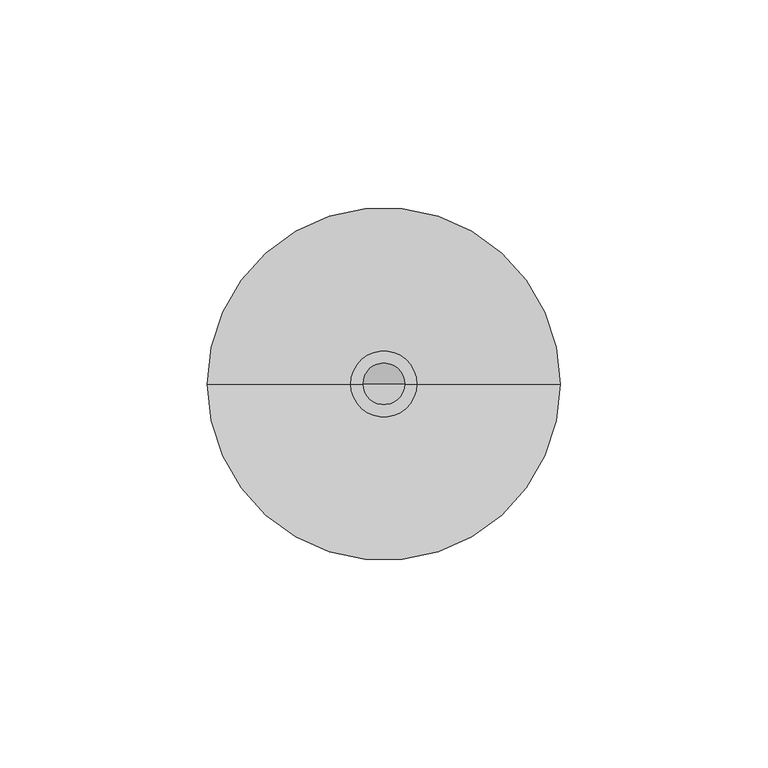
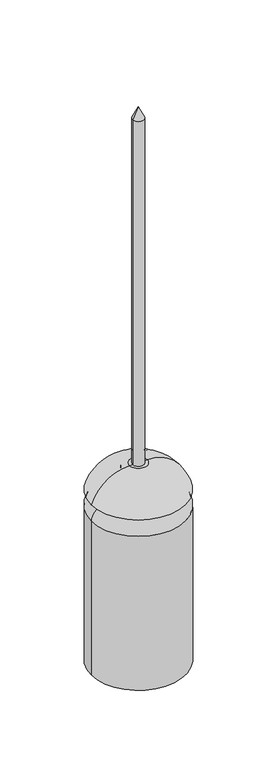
"""IFC4 building model written with IfcOpenShell, lengths in millimetres: proxy geometry, КНС_ESEМолниеприемник_DKC : NI0060_Нержавеющая сталь V4A."""

import ifcopenshell
import ifcopenshell.guid

model = None  # the IFC model being written
_history = None  # IfcOwnerHistory: only IFC2X3 demands one
_inside = {}  # id of a spatial element -> (the spatial element, [elements in it])
_under = {}  # id of a project, library or spatial element -> (it, [spatial elements below it])
_declared = {}  # id of a project -> (the project, [libraries it declares])
_typed = {}  # id of a type object -> (the type object, [elements of that type])
_made_of = {}  # id of a material, layer set ... -> (it, [elements and type objects made of it])


def new_model(schema):
    """Start an empty IFC model of exactly this schema.

    Asked for "IFC4X3", IfcOpenShell would pick the latest addendum, in which some entities
    have other attributes; the version numbers below select the first issue.
    IFC2X3 requires an IfcOwnerHistory on every rooted entity: one is made here for all.
    """
    global model, _history
    if schema == "IFC4X3":
        model = ifcopenshell.file(schema_version=(4, 3, 0, 0))
    else:
        model = ifcopenshell.file(schema=schema)
    _inside.clear()
    _under.clear()
    _declared.clear()
    _typed.clear()
    _made_of.clear()
    _history = None
    if model.schema == "IFC2X3":
        org = make("IfcOrganization", Name="unknown")
        user = make(
            "IfcPersonAndOrganization",
            ThePerson=make("IfcPerson", FamilyName="unknown"),
            TheOrganization=org,
        )
        app = make(
            "IfcApplication",
            ApplicationDeveloper=org,
            Version="unknown",
            ApplicationFullName="unknown",
            ApplicationIdentifier="unknown",
        )
        _history = make(
            "IfcOwnerHistory",
            OwningUser=user,
            OwningApplication=app,
            ChangeAction="ADDED",
            CreationDate=0,
        )
    return model


def make(cls, **values):
    """One entity of the class cls with the attributes given. An attribute that is None is left unset."""
    return model.create_entity(
        cls, **{name: value for name, value in values.items() if value is not None}
    )


def rooted(cls, **values):
    """An entity with a GlobalId (a new one), such as an element, a storey or a relation."""
    return make(cls, GlobalId=ifcopenshell.guid.new(), OwnerHistory=_history, **values)


def si_unit(unit_type, name, prefix=None):
    """IfcSIUnit, for example si_unit("LENGTHUNIT", "METRE", prefix="MILLI")."""
    return make("IfcSIUnit", UnitType=unit_type, Prefix=prefix, Name=name)


def assignment(units):
    """IfcUnitAssignment: the units of a project."""
    return None if units is None else make("IfcUnitAssignment", Units=units)


def point(xyz):
    """IfcCartesianPoint."""
    return None if xyz is None else make("IfcCartesianPoint", Coordinates=xyz)


def direction(xyz):
    """IfcDirection."""
    return None if xyz is None else make("IfcDirection", DirectionRatios=xyz)


def frame(location, z_axis=None, x_axis=None):
    """IfcAxis2Placement3D, a coordinate frame: its origin and axes. An axis left out is left unset."""
    return make(
        "IfcAxis2Placement3D",
        Location=point(location),
        Axis=direction(z_axis),
        RefDirection=direction(x_axis),
    )


def origin():
    """The frame at (0, 0, 0) with its axes left unset."""
    return frame((0.0, 0.0, 0.0))


def place(relative_to, where):
    """IfcLocalPlacement: puts the frame where relative to a parent placement (None: the world)."""
    return make(
        "IfcLocalPlacement", PlacementRelTo=relative_to, RelativePlacement=where
    )


def context(
    kind, dimensions, precision=None, world=None, true_north=None, identifier=None
):
    """IfcGeometricRepresentationContext, for example the 3D "Model" context."""
    return make(
        "IfcGeometricRepresentationContext",
        ContextIdentifier=identifier,
        ContextType=kind,
        CoordinateSpaceDimension=dimensions,
        Precision=precision,
        WorldCoordinateSystem=world,
        TrueNorth=true_north,
    )


def project(units=None, contexts=None):
    """IfcProject with its units and contexts."""
    return rooted(
        "IfcProject",
        Name="project",
        RepresentationContexts=contexts,
        UnitsInContext=assignment(units),
    )


def spatial(cls, under=None, at=None, **own):
    """A site, building, storey or space (cls), placed at a placement, below another one or the project."""
    s = rooted(cls, ObjectPlacement=at, **own)
    if under is not None:
        _under.setdefault(under.id(), (under, []))[1].append(s)
    return s


def polyline(points):
    """IfcPolyline through the points."""
    return make("IfcPolyline", Points=[point(p) for p in points])


def circle_curve(where, radius):
    """IfcCircle in the frame where."""
    return make("IfcCircle", Position=where, Radius=radius)


def ellipse_curve(where, semi_axis1, semi_axis2):
    """IfcEllipse in the frame where."""
    return make(
        "IfcEllipse", Position=where, SemiAxis1=semi_axis1, SemiAxis2=semi_axis2
    )


def trimmed(basis, trim1, trim2, sense, master):
    """IfcTrimmedCurve: the piece of a basis curve between two trims."""
    return make(
        "IfcTrimmedCurve",
        BasisCurve=basis,
        Trim1=trim1,
        Trim2=trim2,
        SenseAgreement=sense,
        MasterRepresentation=master,
    )


def shape(context_of_items, identifier, shape_type, items):
    """IfcShapeRepresentation: the items that make up one representation, for example the "Body"."""
    return make(
        "IfcShapeRepresentation",
        ContextOfItems=context_of_items,
        RepresentationIdentifier=identifier,
        RepresentationType=shape_type,
        Items=items,
    )


def source(mapping_origin, context_of_items, identifier, shape_type, items):
    """IfcRepresentationMap: a shape defined once, which mapped items show again and again."""
    return make(
        "IfcRepresentationMap",
        MappingOrigin=mapping_origin,
        MappedRepresentation=shape(context_of_items, identifier, shape_type, items),
    )


def transform(
    local_origin,
    x_axis=None,
    y_axis=None,
    z_axis=None,
    scale=None,
    scale2=None,
    scale3=None,
    uniform=True,
):
    """IfcCartesianTransformationOperator3D, or its non-uniform kind. x_axis, y_axis, z_axis: its Axis1, 2, 3."""
    if uniform:
        return make(
            "IfcCartesianTransformationOperator3D",
            Axis1=direction(x_axis),
            Axis2=direction(y_axis),
            LocalOrigin=point(local_origin),
            Scale=scale,
            Axis3=direction(z_axis),
        )
    return make(
        "IfcCartesianTransformationOperator3DnonUniform",
        Axis1=direction(x_axis),
        Axis2=direction(y_axis),
        LocalOrigin=point(local_origin),
        Scale=scale,
        Axis3=direction(z_axis),
        Scale2=scale2,
        Scale3=scale3,
    )


def mapped(mapping_source, mapping_target):
    """IfcMappedItem: shows the shape of a source again, moved by a transform."""
    return make(
        "IfcMappedItem", MappingSource=mapping_source, MappingTarget=mapping_target
    )


def made_of(thing, what):
    """Note that an element or type object is made of a material, layer set ...; save() writes the relation."""
    if what is not None:
        _made_of.setdefault(what.id(), (what, []))[1].append(thing)
    return thing


def element(
    cls,
    number,
    at=None,
    inside=None,
    cuts=None,
    type_object=None,
    material=None,
    context=None,
    identifier="Body",
    shape_type=None,
    held_by="IfcProductDefinitionShape",
    body=None,
    shapes=None,
    **own,
):
    """One element of the class cls, such as IfcWall. Its Tag is "e" and its number.

    at: its placement. inside: the storey or other place that contains it. cuts: it is an
    opening in that element (IfcRelVoidsElement). A single representation is given by context,
    identifier, shape_type and body (its items); several are given by shapes. held_by: the class
    of the entity that holds the representations. save() writes the other relations.
    """
    e = rooted(cls, Tag="e%d" % number, ObjectPlacement=at, **own)
    if body is not None:
        shapes = [shape(context, identifier, shape_type, body)]
    if shapes is not None:
        e.Representation = make(held_by, Representations=shapes)
    if inside is not None:
        _inside.setdefault(inside.id(), (inside, []))[1].append(e)
    if cuts is not None:
        rooted(
            "IfcRelVoidsElement", RelatingBuildingElement=cuts, RelatedOpeningElement=e
        )
    if type_object is not None:
        _typed.setdefault(type_object.id(), (type_object, []))[1].append(e)
    return made_of(e, material)


def aggregate(whole, parts):
    """IfcRelAggregates: a whole, such as a stair, and the parts it consists of."""
    return rooted("IfcRelAggregates", RelatingObject=whole, RelatedObjects=parts)


def save(model, path):
    """Write the relations noted so far, then the file.

    IfcRelAggregates (storeys below a building ...), IfcRelContainedInSpatialStructure (elements
    in a storey), IfcRelDefinesByType, IfcRelAssociatesMaterial and IfcRelDeclares: one each for
    every whole, place, type object, material and project.
    """
    for whole, parts in _under.values():
        aggregate(whole, parts)
    for where, things in _inside.values():
        rooted(
            "IfcRelContainedInSpatialStructure",
            RelatedElements=things,
            RelatingStructure=where,
        )
    for kind, things in _typed.values():
        rooted("IfcRelDefinesByType", RelatedObjects=things, RelatingType=kind)
    for what, things in _made_of.values():
        rooted("IfcRelAssociatesMaterial", RelatedObjects=things, RelatingMaterial=what)
    for by, libraries in _declared.values():
        rooted("IfcRelDeclares", RelatingContext=by, RelatedDefinitions=libraries)
    model.write(path)


def plane_surface(at):
    """IfcPlane: the flat surface through the origin of the frame at, square to its z axis."""
    return make("IfcPlane", Position=at)


def cylinder_surface(at, radius):
    """IfcCylindricalSurface: all points at the distance radius from the z axis of the frame at."""
    return make("IfcCylindricalSurface", Position=at, Radius=radius)


def revolved_surface(curve, axis_point, axis_direction):
    """IfcSurfaceOfRevolution: the curve turned about the line through axis_point along axis_direction."""
    return make(
        "IfcSurfaceOfRevolution",
        SweptCurve=make("IfcArbitraryOpenProfileDef", ProfileType="CURVE", Curve=curve),
        AxisPosition=make("IfcAxis1Placement", Location=point(axis_point), Axis=direction(axis_direction)),
    )


def advanced_brep(points, edges, surfaces, faces):
    """IfcAdvancedBrep: a solid bounded by faces that lie on surfaces and meet in shared edges.

    An edge is (start, end): straight between two places in points (the first is 0);
    or (start, end, curve); or (start, end, curve, False) where it runs against its curve.
    A face is (place in surfaces, loops), or (place, loops, False) where it looks against
    its surface's normal. A loop lists edges by number (the first is 1), with a minus sign
    where the edge is run from its end to its start. The first loop is the outer one.
    """
    corners = [point(p) for p in points]
    vertices = [make("IfcVertexPoint", VertexGeometry=c) for c in corners]
    made = []
    for start, end, *more in edges:
        made.append(
            make(
                "IfcEdgeCurve",
                EdgeStart=vertices[start],
                EdgeEnd=vertices[end],
                EdgeGeometry=more[0] if more else make("IfcPolyline", Points=[corners[start], corners[end]]),
                SameSense=more[1] if len(more) > 1 else True,
            )
        )
    hull = []
    for where, loops, *sense in faces:
        bounds = []
        for j, loop in enumerate(loops):
            ring = [make("IfcOrientedEdge", EdgeElement=made[abs(k) - 1], Orientation=k > 0) for k in loop]
            bounds.append(
                make(
                    "IfcFaceOuterBound" if j == 0 else "IfcFaceBound",
                    Bound=make("IfcEdgeLoop", EdgeList=ring),
                    Orientation=True,
                )
            )
        hull.append(make("IfcAdvancedFace", Bounds=bounds, FaceSurface=surfaces[where], SameSense=sense[0] if sense else True))
    return make("IfcAdvancedBrep", Outer=make("IfcClosedShell", CfsFaces=hull))


def security_devices_b226a513(model_context):
    return source(origin(), model_context, "Body", "AdvancedBrep", [
        advanced_brep(
        [(5.0, 0.0, 518.2774654), (-5.0, 0.0, 518.2774654), (0.0, 0.0, 529.0), (5.0, 0.0, 189.5), (-5.0, 0.0, 189.5), (0.0, 0.0, 189.5)],
        [
            (0, 1, circle_curve(frame((0.0, 0.0, 518.2774654), z_axis=(0.0, 0.0, 1.0), x_axis=(-1.0, 0.0, 0.0)), 5.0)),
            (1, 2),
            (2, 0),
            (1, 0, circle_curve(frame((0.0, 0.0, 518.2774654), z_axis=(0.0, 0.0, 1.0), x_axis=(-1.0, 0.0, 0.0)), 5.0)),
            (3, 4, circle_curve(frame((0.0, 0.0, 189.5), z_axis=(0.0, 0.0, 1.0), x_axis=(-1.0, 0.0, 0.0)), 5.0)),
            (4, 1),
            (0, 3),
            (4, 3, circle_curve(frame((0.0, 0.0, 189.5), z_axis=(0.0, 0.0, 1.0), x_axis=(-1.0, 0.0, 0.0)), 5.0)),
            (5, 4),
            (3, 5),
        ],
        [
            revolved_surface(polyline([(0.0, 0.0, 529.0), (-5.0, 0.0, 518.2774654)]), (0.0, 0.0, 2364.3150031), (0.0, 0.0, -1.0)),
            cylinder_surface(frame((0.0, 0.0, 2364.3150031), z_axis=(0.0, 0.0, -1.0), x_axis=(-1.0, 0.0, 0.0)), 5.0),
            plane_surface(frame((0.0, 0.0, 189.5), z_axis=(0.0, 0.0, -1.0), x_axis=(-1.0, 0.0, 0.0))),
        ],
        [
            (0, [[1, 2, 3]]),
            (0, [[4, -3, -2]]),
            (1, [[5, 6, -1, 7]]),
            (1, [[8, -7, -4, -6]]),
            (2, [[9, -5, 10]]),
            (2, [[-10, -8, -9]]),
        ],
    ),
        advanced_brep(
        [(0.0, 0.0, 0.0), (-14.0, 0.0, 0.0), (14.0, 0.0, 0.0), (7.9645399, 0.0, 189.5), (-7.9645399, 0.0, 189.5), (0.0, 0.0, 189.5), (42.5, 0.0, 164.4085195), (-42.5, 0.0, 164.4085195), (41.4469613, 0.0, 164.4085195), (-41.4469613, 0.0, 164.4085195), (14.0, 0.0, 187.9804033), (-14.0, 0.0, 187.9804033), (14.0, 0.0, 159.5), (-14.0, 0.0, 159.5), (29.8018389, 0.0, 159.5), (-29.8018389, 0.0, 159.5), (42.5, 0.0, 148.8449777), (-42.5, 0.0, 148.8449777), (42.5, 0.0, 2.0), (-42.5, 0.0, 2.0), (41.5, 0.0, 2.0), (-41.5, 0.0, 2.0), (41.5, 0.0, 27.0), (-41.5, 0.0, 27.0), (14.0, 0.0, 27.0), (-14.0, 0.0, 27.0)],
        [
            (0, 1),
            (1, 2, circle_curve(frame((0.0, 0.0, 0.0), z_axis=(0.0, 0.0, -1.0), x_axis=(-1.0, 0.0, 0.0)), 14.0)),
            (2, 0),
            (2, 1, circle_curve(frame((0.0, 0.0, 0.0), z_axis=(0.0, 0.0, -1.0), x_axis=(-1.0, 0.0, 0.0)), 14.0)),
            (3, 4, circle_curve(frame((0.0, 0.0, 189.5), z_axis=(0.0, 0.0, 1.0), x_axis=(-1.0, 0.0, 0.0)), 7.9645399)),
            (4, 5),
            (5, 3),
            (4, 3, circle_curve(frame((0.0, 0.0, 189.5), z_axis=(0.0, 0.0, 1.0), x_axis=(-1.0, 0.0, 0.0)), 7.9645399)),
            (6, 7, circle_curve(frame((0.0, 0.0, 164.4085195), z_axis=(0.0, 0.0, 1.0), x_axis=(-1.0, 0.0, 0.0)), 42.5)),
            (7, 4, circle_curve(frame((-7.9645399, 0.0, 153.1872683), z_axis=(0.0, 1.0, 0.0), x_axis=(1.0, 0.0, 0.0)), 36.3127317)),
            (3, 6, circle_curve(frame((7.9645399, 0.0, 153.1872683), z_axis=(0.0, 1.0, 0.0), x_axis=(-1.0, 0.0, 0.0)), 36.3127317)),
            (7, 6, circle_curve(frame((0.0, 0.0, 164.4085195), z_axis=(0.0, 0.0, 1.0), x_axis=(-1.0, 0.0, 0.0)), 42.5)),
            (8, 9, circle_curve(frame((0.0, 0.0, 164.4085195), z_axis=(0.0, 0.0, 1.0), x_axis=(-1.0, 0.0, 0.0)), 41.4469613)),
            (9, 7),
            (6, 8),
            (9, 8, circle_curve(frame((0.0, 0.0, 164.4085195), z_axis=(0.0, 0.0, 1.0), x_axis=(-1.0, 0.0, 0.0)), 41.4469613)),
            (10, 11, circle_curve(frame((0.0, 0.0, 187.9804033), z_axis=(0.0, 0.0, 1.0), x_axis=(-1.0, 0.0, 0.0)), 14.0)),
            (11, 9, circle_curve(frame((-7.9645399, 0.0, 153.1872683), z_axis=(0.0, -1.0, 0.0), x_axis=(1.0, 0.0, 0.0)), 35.3127317)),
            (8, 10, circle_curve(frame((7.9645399, 0.0, 153.1872683), z_axis=(0.0, -1.0, 0.0), x_axis=(-1.0, 0.0, 0.0)), 35.3127317)),
            (11, 10, circle_curve(frame((0.0, 0.0, 187.9804033), z_axis=(0.0, 0.0, 1.0), x_axis=(-1.0, 0.0, 0.0)), 14.0)),
            (12, 13, circle_curve(frame((0.0, 0.0, 159.5), z_axis=(0.0, 0.0, 1.0), x_axis=(-1.0, 0.0, 0.0)), 14.0)),
            (13, 11),
            (10, 12),
            (13, 12, circle_curve(frame((0.0, 0.0, 159.5), z_axis=(0.0, 0.0, 1.0), x_axis=(-1.0, 0.0, 0.0)), 14.0)),
            (14, 15, circle_curve(frame((0.0, 0.0, 159.5), z_axis=(0.0, 0.0, 1.0), x_axis=(-1.0, 0.0, 0.0)), 29.8018389)),
            (15, 13),
            (12, 14),
            (15, 14, circle_curve(frame((0.0, 0.0, 159.5), z_axis=(0.0, 0.0, 1.0), x_axis=(-1.0, 0.0, 0.0)), 29.8018389)),
            (16, 17, circle_curve(frame((0.0, 0.0, 148.8449777), z_axis=(0.0, 0.0, 1.0), x_axis=(-1.0, 0.0, 0.0)), 42.5)),
            (17, 15, circle_curve(frame((-31.6806068, 0.0, 148.8449777), z_axis=(0.0, 1.0, 0.0), x_axis=(1.0, 0.0, 0.0)), 10.8193932)),
            (14, 16, circle_curve(frame((31.6806068, 0.0, 148.8449777), z_axis=(0.0, 1.0, 0.0), x_axis=(-1.0, 0.0, 0.0)), 10.8193932)),
            (17, 16, circle_curve(frame((0.0, 0.0, 148.8449777), z_axis=(0.0, 0.0, 1.0), x_axis=(-1.0, 0.0, 0.0)), 42.5)),
            (18, 19, circle_curve(frame((0.0, 0.0, 2.0), z_axis=(0.0, 0.0, 1.0), x_axis=(-1.0, 0.0, 0.0)), 42.5)),
            (19, 17),
            (16, 18),
            (19, 18, circle_curve(frame((0.0, 0.0, 2.0), z_axis=(0.0, 0.0, 1.0), x_axis=(-1.0, 0.0, 0.0)), 42.5)),
            (20, 21, circle_curve(frame((0.0, 0.0, 2.0), z_axis=(0.0, 0.0, 1.0), x_axis=(-1.0, 0.0, 0.0)), 41.5)),
            (21, 19),
            (18, 20),
            (21, 20, circle_curve(frame((0.0, 0.0, 2.0), z_axis=(0.0, 0.0, 1.0), x_axis=(-1.0, 0.0, 0.0)), 41.5)),
            (22, 23, circle_curve(frame((0.0, 0.0, 27.0), z_axis=(0.0, 0.0, 1.0), x_axis=(-1.0, 0.0, 0.0)), 41.5)),
            (23, 21),
            (20, 22),
            (23, 22, circle_curve(frame((0.0, 0.0, 27.0), z_axis=(0.0, 0.0, 1.0), x_axis=(-1.0, 0.0, 0.0)), 41.5)),
            (24, 25, circle_curve(frame((0.0, 0.0, 27.0), z_axis=(0.0, 0.0, 1.0), x_axis=(-1.0, 0.0, 0.0)), 14.0)),
            (25, 23),
            (22, 24),
            (25, 24, circle_curve(frame((0.0, 0.0, 27.0), z_axis=(0.0, 0.0, 1.0), x_axis=(-1.0, 0.0, 0.0)), 14.0)),
            (1, 25),
            (24, 2),
        ],
        [
            plane_surface(frame((0.0, 0.0, 0.0), z_axis=(0.0, 0.0, -1.0), x_axis=(-1.0, 0.0, 0.0))),
            plane_surface(frame((0.0, 0.0, 189.5), z_axis=(0.0, 0.0, 1.0), x_axis=(-1.0, 0.0, 0.0))),
            revolved_surface(trimmed(ellipse_curve(frame((-7.9645399, 0.0, 153.1872683), z_axis=(0.0, -1.0, 0.0), x_axis=(1.0, 0.0, 0.0)), 36.3127317, 36.3127317), [point((-7.9645399, 0.0, 189.5))], [point((-42.5, 0.0, 164.4085195))], True, "CARTESIAN"), (0.0, 0.0, 122.0), (0.0, 0.0, -1.0)),
            plane_surface(frame((0.0, 0.0, 164.4085195), z_axis=(0.0, 0.0, -1.0), x_axis=(-1.0, 0.0, 0.0))),
            revolved_surface(trimmed(ellipse_curve(frame((-7.9645399, 0.0, 153.1872683), z_axis=(0.0, 1.0, 0.0), x_axis=(1.0, 0.0, 0.0)), 35.3127317, 35.3127317), [point((-41.4469613, 0.0, 164.4085195))], [point((-14.0, 0.0, 187.9804033))], True, "CARTESIAN"), (0.0, 0.0, 122.0), (0.0, 0.0, -1.0)),
            cylinder_surface(frame((0.0, 0.0, 122.0), z_axis=(0.0, 0.0, -1.0), x_axis=(-1.0, 0.0, 0.0)), 14.0),
            plane_surface(frame((0.0, 0.0, 159.5), z_axis=(0.0, 0.0, 1.0), x_axis=(-1.0, 0.0, 0.0))),
            revolved_surface(trimmed(ellipse_curve(frame((-31.6806068, 0.0, 148.8449777), z_axis=(0.0, -1.0, 0.0), x_axis=(1.0, 0.0, 0.0)), 10.8193932, 10.8193932), [point((-29.8018389, 0.0, 159.5))], [point((-42.5, 0.0, 148.8449777))], True, "CARTESIAN"), (0.0, 0.0, 122.0), (0.0, 0.0, -1.0)),
            cylinder_surface(frame((0.0, 0.0, 122.0), z_axis=(0.0, 0.0, -1.0), x_axis=(-1.0, 0.0, 0.0)), 42.5),
            plane_surface(frame((0.0, 0.0, 2.0), z_axis=(0.0, 0.0, -1.0), x_axis=(-1.0, 0.0, 0.0))),
            revolved_surface(polyline([(-41.5, 0.0, 2.0), (-41.5, 0.0, 27.0)]), (0.0, 0.0, 122.0), (0.0, 0.0, -1.0)),
            plane_surface(frame((0.0, 0.0, 27.0), z_axis=(0.0, 0.0, -1.0), x_axis=(-1.0, 0.0, 0.0))),
        ],
        [
            (0, [[1, 2, 3]]),
            (0, [[-3, 4, -1]]),
            (1, [[5, 6, 7]]),
            (1, [[8, -7, -6]]),
            (2, [[9, 10, -5, 11]]),
            (2, [[12, -11, -8, -10]]),
            (3, [[13, 14, -9, 15]]),
            (3, [[16, -15, -12, -14]]),
            (4, [[17, 18, -13, 19]]),
            (4, [[20, -19, -16, -18]]),
            (5, [[21, 22, -17, 23]]),
            (5, [[24, -23, -20, -22]]),
            (6, [[25, 26, -21, 27]]),
            (6, [[28, -27, -24, -26]]),
            (7, [[29, 30, -25, 31]]),
            (7, [[32, -31, -28, -30]]),
            (8, [[33, 34, -29, 35]]),
            (8, [[36, -35, -32, -34]]),
            (9, [[37, 38, -33, 39]]),
            (9, [[40, -39, -36, -38]]),
            (10, [[41, 42, -37, 43]]),
            (10, [[44, -43, -40, -42]]),
            (11, [[45, 46, -41, 47]]),
            (11, [[48, -47, -44, -46]]),
            (5, [[-2, 49, -45, 50]]),
            (5, [[-4, -50, -48, -49]]),
        ],
    ),
    ])


if __name__ == "__main__":
    model = new_model("IFC4")
    model_context = context("Model", 3, world=origin())
    ifc_project = project(units=[si_unit("LENGTHUNIT", "METRE", prefix="MILLI")], contexts=[model_context])
    site = spatial("IfcSite", under=ifc_project)
    building = spatial("IfcBuilding", under=site)
    placement = place(None, origin())
    security_devices_shape = security_devices_b226a513(model_context)
    element("IfcBuildingElementProxy", 1, Name="КНС_ESEМолниеприемник_DKC : NI0060_Нержавеющая сталь V4A", ObjectType="КНС_ESEМолниеприемник_DKC : NI0060_Нержавеющая сталь V4A", at=placement, inside=building, context=model_context, shape_type="MappedRepresentation", body=[
        mapped(security_devices_shape, transform((0.0, 0.0, 0.0), x_axis=(1.0, 0.0, 0.0), y_axis=(0.0, 1.0, 0.0), z_axis=(0.0, 0.0, 1.0))),
    ])
    save(model, "model.ifc")
